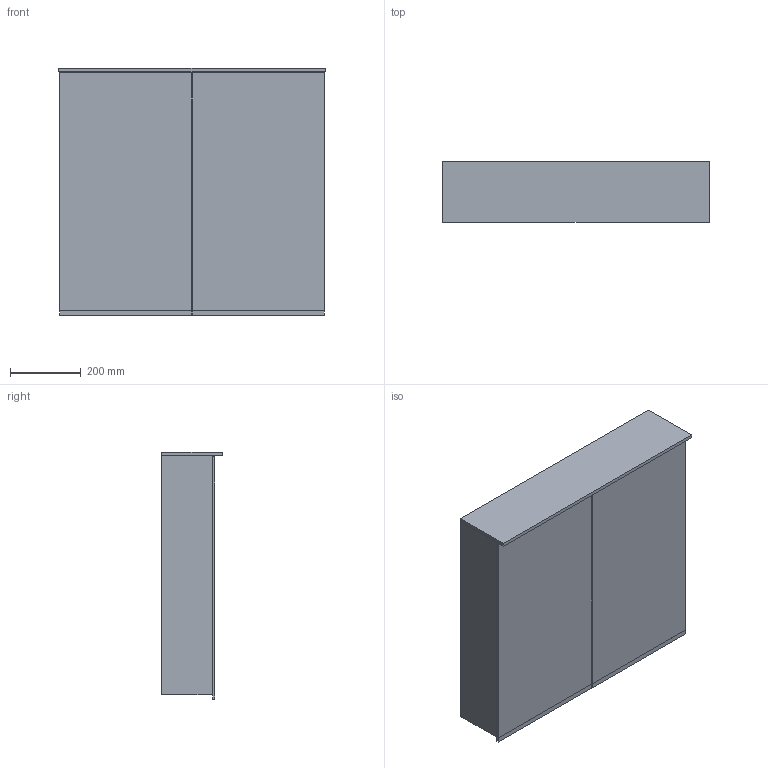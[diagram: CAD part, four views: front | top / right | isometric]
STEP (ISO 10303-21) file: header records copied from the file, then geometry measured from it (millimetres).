
FILE_DESCRIPTION(/* description */ (''),/* implementation_level */ '2;1');
FILE_NAME(/* name */ 'C:\Planerdaten\Export PLA\500.206.00.1\stp\500206.stp',/* time_stamp */ '2020-01-13T15:44:26+01:00',/* author */ ('JANAN'),/* organization */ (''),/* preprocessor_version */ 'ST-DEVELOPER v16.13',/* originating_system */ 'Autodesk Inventor 2018',/* authorisation */ '');
FILE_SCHEMA (('AUTOMOTIVE_DESIGN { 1 0 10303 214 3 1 1 }'));
Length unit declared in the file: millimetre
Products named in the file (1): SpglSchrk Ge+OptP B75 m/Bel 2-Tü
Bounding box: 752 x 172 x 699 mm (x, y, z)
Volume: 17350344.4 mm3; surface area: 3251870 mm2
Topology: 3 solids, 3 shells, 65 faces, 174 edges, 116 vertices
Faces by surface type: plane 65
Entity records: 2105 total; most frequent: CARTESIAN_POINT 356, ORIENTED_EDGE 348, DIRECTION 306, LINE 174, VECTOR 174, EDGE_CURVE 174, VERTEX_POINT 116, EDGE_LOOP 70
